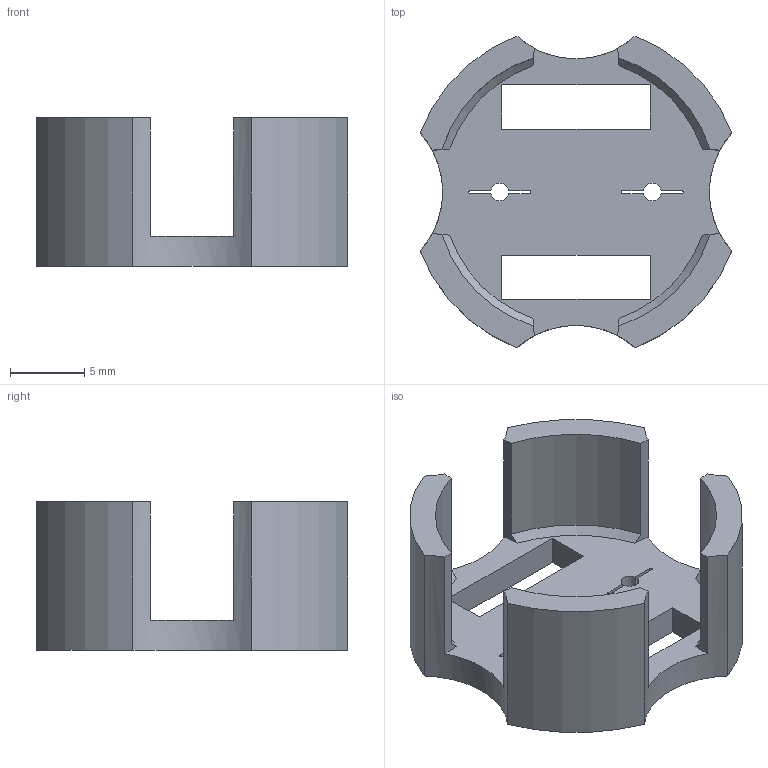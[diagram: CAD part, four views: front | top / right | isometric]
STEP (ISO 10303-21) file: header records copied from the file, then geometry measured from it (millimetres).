
FILE_DESCRIPTION(('FreeCAD Model'),'2;1');
FILE_NAME('Open CASCADE Shape Model','2026-01-25T17:12:42',(''),(''), 'Open CASCADE STEP processor 7.8','FreeCAD','Unknown');
FILE_SCHEMA(('AUTOMOTIVE_DESIGN { 1 0 10303 214 1 1 1 1 }'));
Length unit declared in the file: millimetre
Products named in the file (1): jpole_clampbottom
Bounding box: 21.04 x 21.04 x 10 mm (x, y, z)
Volume: 1118.5 mm3; surface area: 1577.6 mm2
Topology: 1 solids, 1 shells, 54 faces, 172 edges, 120 vertices
Faces by surface type: plane 22, cylinder 20, bspline 8, cone 4
Entity records: 2418 total; most frequent: CARTESIAN_POINT 903, ORIENTED_EDGE 344, DIRECTION 278, EDGE_CURVE 172, VERTEX_POINT 120, AXIS2_PLACEMENT_3D 107, LINE 64, VECTOR 64
